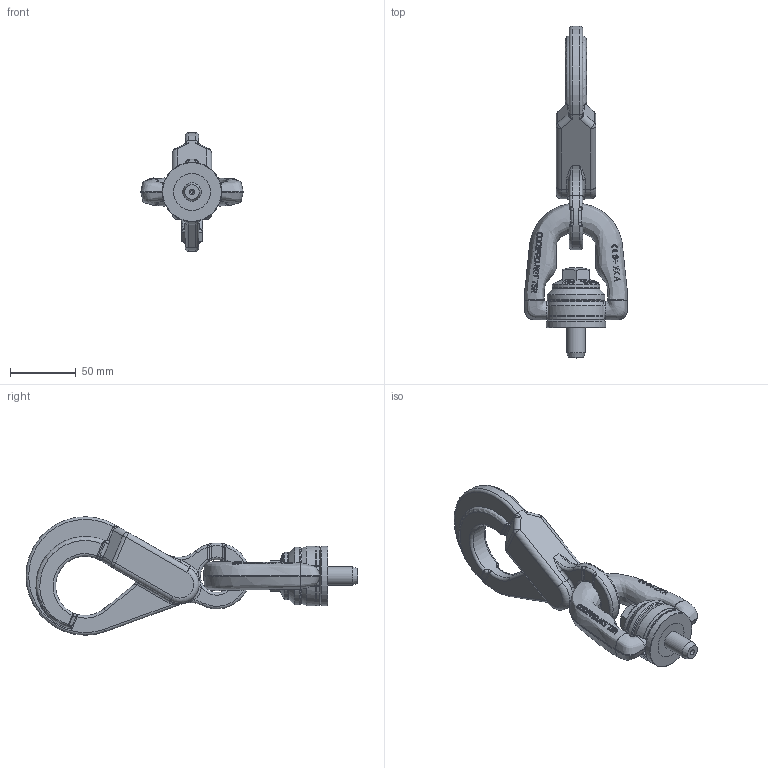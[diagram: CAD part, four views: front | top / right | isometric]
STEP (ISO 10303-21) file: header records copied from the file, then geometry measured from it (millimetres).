
FILE_DESCRIPTION(/* description */ (''),/* implementation_level */ '2;1');
FILE_NAME(/* name */ 'W:\CODIPRO\DOCUMENTS\Plans A NE PAS DIFFUSER !!!\Inventor\Standard Inventor\Produit Fini Inventor\DSH\Fichiers 3D\DSH M14.stp',/* time_stamp */ '2017-10-06T09:09:40+02:00',/* author */ ('rklenes'),/* organization */ (''),/* preprocessor_version */ 'ST-DEVELOPER v16.5',/* originating_system */ 'Autodesk Inventor 2017',/* authorisation */ '');
FILE_SCHEMA (('AUTOMOTIVE_DESIGN { 1 0 10303 214 3 1 1 }'));
Length unit declared in the file: millimetre
Products named in the file (6): DSP M14; DRA_M14X53; DRB_B2B; TSM_AO2C; DHH_S2; DRE_D2M14A
Assembly tree (5 placements, depth 2):
  DSP M14
    DRA_M14X53
    DRB_B2B
    TSM_AO2C
    DHH_S2
    DRE_D2M14A
Bounding box: 77.89 x 252.25 x 90 mm (x, y, z)
Volume: 237125.7 mm3; surface area: 57508.9 mm2
Topology: 5 solids, 5 shells, 731 faces, 1865 edges, 1160 vertices
Faces by surface type: plane 300, bspline 252, cylinder 80, torus 47, cone 35, sphere 17
Full cylindrical faces by diameter (mm): 2 x1, 14 x6, 14.2 x1, 22.6 x2, 23 x2, 25 x1, 32 x1, 36 x1, 44 x1, 45 x1
Entity records: 34069 total; most frequent: CARTESIAN_POINT 18377, ORIENTED_EDGE 3602, DIRECTION 2540, EDGE_CURVE 1801, VERTEX_POINT 1156, AXIS2_PLACEMENT_3D 970, EDGE_LOOP 815, FACE_OUTER_BOUND 731
